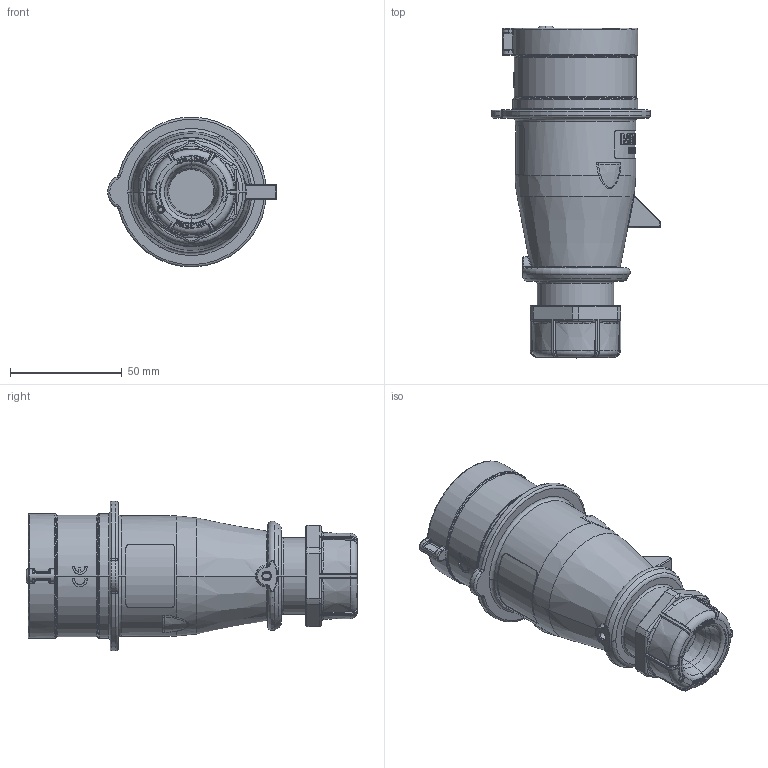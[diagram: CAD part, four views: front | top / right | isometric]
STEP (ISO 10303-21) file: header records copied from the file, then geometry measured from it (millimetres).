
FILE_DESCRIPTION((''),'2;1');
FILE_NAME('742','2020-10-27T08:44:45',('fries'),('MENNEKES'),'CREO PARAMETRIC BY PTC INC, 2019080','CREO PARAMETRIC BY PTC INC, 2019080','');
FILE_SCHEMA(('AUTOMOTIVE_DESIGN { 1 0 10303 214 1 1 1 1 }'));
Products named in the file (1): 742
Bounding box: 75.47 x 148.35 x 66.97 mm (x, y, z)
Volume: 210502 mm3; surface area: 47886.7 mm2
Topology: 1 solids, 1 shells, 2061 faces, 5626 edges, 3643 vertices
Faces by surface type: plane 1209, extrusion 248, cylinder 220, bspline 140, torus 138, cone 100, sphere 6
Entity records: 88911 total; most frequent: CARTESIAN_POINT 23869, ORIENTED_EDGE 11248, DIRECTION 8708, EDGE_CURVE 5624, VERTEX_POINT 3643, VECTOR 3512, LINE 3264, AXIS2_PLACEMENT_3D 2598
